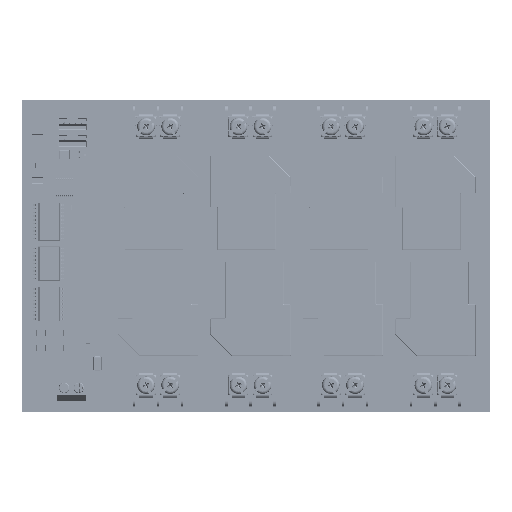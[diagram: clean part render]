
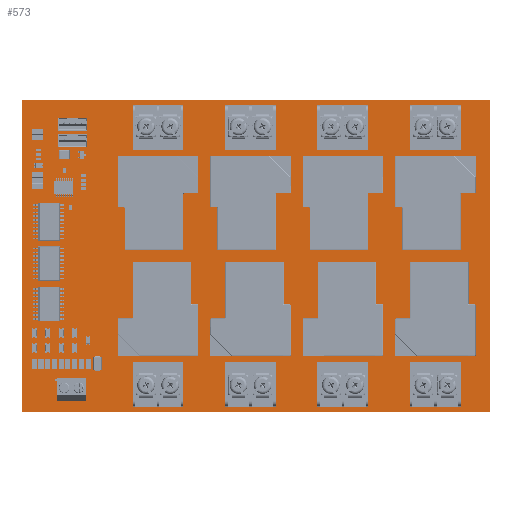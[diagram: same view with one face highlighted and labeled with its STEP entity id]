
A CAD part, top view. The second image highlights one B-rep face of the part: STEP entity #573.
In plain terms, the highlighted planar face has unit normal (0, 0, 1).
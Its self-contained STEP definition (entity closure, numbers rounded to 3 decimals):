
#259 = VERTEX_POINT('',#260);
#260 = CARTESIAN_POINT('',(0.,0.,1.671));
#267 = PLANE('',#268);
#268 = AXIS2_PLACEMENT_3D('',#269,#270,#271);
#269 = CARTESIAN_POINT('',(0.,0.,0.));
#270 = DIRECTION('',(0.,1.,0.));
#271 = DIRECTION('',(1.,0.,0.));
#279 = PLANE('',#280);
#280 = AXIS2_PLACEMENT_3D('',#281,#282,#283);
#281 = CARTESIAN_POINT('',(0.,107.,0.));
#282 = DIRECTION('',(1.,0.,0.));
#283 = DIRECTION('',(0.,-1.,0.));
#291 = EDGE_CURVE('',#259,#292,#294,.T.);
#292 = VERTEX_POINT('',#293);
#293 = CARTESIAN_POINT('',(160.,0.,1.671));
#294 = SURFACE_CURVE('',#295,(#299,#306),.PCURVE_S1.);
#295 = LINE('',#296,#297);
#296 = CARTESIAN_POINT('',(0.,0.,1.671));
#297 = VECTOR('',#298,1.);
#298 = DIRECTION('',(1.,0.,0.));
#299 = PCURVE('',#267,#300);
#300 = DEFINITIONAL_REPRESENTATION('',(#301),#305);
#301 = LINE('',#302,#303);
#302 = CARTESIAN_POINT('',(0.,-1.671));
#303 = VECTOR('',#304,1.);
#304 = DIRECTION('',(1.,0.));
#305 = ( GEOMETRIC_REPRESENTATION_CONTEXT(2) 
PARAMETRIC_REPRESENTATION_CONTEXT() REPRESENTATION_CONTEXT('2D SPACE',''
  ) );
#306 = PCURVE('',#307,#312);
#307 = PLANE('',#308);
#308 = AXIS2_PLACEMENT_3D('',#309,#310,#311);
#309 = CARTESIAN_POINT('',(0.,0.,1.671));
#310 = DIRECTION('',(0.,0.,-1.));
#311 = DIRECTION('',(-1.,0.,0.));
#312 = DEFINITIONAL_REPRESENTATION('',(#313),#317);
#313 = LINE('',#314,#315);
#314 = CARTESIAN_POINT('',(0.,0.));
#315 = VECTOR('',#316,1.);
#316 = DIRECTION('',(-1.,0.));
#317 = ( GEOMETRIC_REPRESENTATION_CONTEXT(2) 
PARAMETRIC_REPRESENTATION_CONTEXT() REPRESENTATION_CONTEXT('2D SPACE',''
  ) );
#335 = PLANE('',#336);
#336 = AXIS2_PLACEMENT_3D('',#337,#338,#339);
#337 = CARTESIAN_POINT('',(160.,0.,0.));
#338 = DIRECTION('',(-1.,0.,0.));
#339 = DIRECTION('',(0.,1.,0.));
#377 = EDGE_CURVE('',#292,#378,#380,.T.);
#378 = VERTEX_POINT('',#379);
#379 = CARTESIAN_POINT('',(160.,107.,1.671));
#380 = SURFACE_CURVE('',#381,(#385,#392),.PCURVE_S1.);
#381 = LINE('',#382,#383);
#382 = CARTESIAN_POINT('',(160.,0.,1.671));
#383 = VECTOR('',#384,1.);
#384 = DIRECTION('',(0.,1.,0.));
#385 = PCURVE('',#335,#386);
#386 = DEFINITIONAL_REPRESENTATION('',(#387),#391);
#387 = LINE('',#388,#389);
#388 = CARTESIAN_POINT('',(0.,-1.671));
#389 = VECTOR('',#390,1.);
#390 = DIRECTION('',(1.,0.));
#391 = ( GEOMETRIC_REPRESENTATION_CONTEXT(2) 
PARAMETRIC_REPRESENTATION_CONTEXT() REPRESENTATION_CONTEXT('2D SPACE',''
  ) );
#392 = PCURVE('',#307,#393);
#393 = DEFINITIONAL_REPRESENTATION('',(#394),#398);
#394 = LINE('',#395,#396);
#395 = CARTESIAN_POINT('',(-160.,0.));
#396 = VECTOR('',#397,1.);
#397 = DIRECTION('',(0.,1.));
#398 = ( GEOMETRIC_REPRESENTATION_CONTEXT(2) 
PARAMETRIC_REPRESENTATION_CONTEXT() REPRESENTATION_CONTEXT('2D SPACE',''
  ) );
#416 = PLANE('',#417);
#417 = AXIS2_PLACEMENT_3D('',#418,#419,#420);
#418 = CARTESIAN_POINT('',(160.,107.,0.));
#419 = DIRECTION('',(0.,-1.,0.));
#420 = DIRECTION('',(-1.,0.,0.));
#453 = EDGE_CURVE('',#378,#454,#456,.T.);
#454 = VERTEX_POINT('',#455);
#455 = CARTESIAN_POINT('',(0.,107.,1.671));
#456 = SURFACE_CURVE('',#457,(#461,#468),.PCURVE_S1.);
#457 = LINE('',#458,#459);
#458 = CARTESIAN_POINT('',(160.,107.,1.671));
#459 = VECTOR('',#460,1.);
#460 = DIRECTION('',(-1.,0.,0.));
#461 = PCURVE('',#416,#462);
#462 = DEFINITIONAL_REPRESENTATION('',(#463),#467);
#463 = LINE('',#464,#465);
#464 = CARTESIAN_POINT('',(0.,-1.671));
#465 = VECTOR('',#466,1.);
#466 = DIRECTION('',(1.,0.));
#467 = ( GEOMETRIC_REPRESENTATION_CONTEXT(2) 
PARAMETRIC_REPRESENTATION_CONTEXT() REPRESENTATION_CONTEXT('2D SPACE',''
  ) );
#468 = PCURVE('',#307,#469);
#469 = DEFINITIONAL_REPRESENTATION('',(#470),#474);
#470 = LINE('',#471,#472);
#471 = CARTESIAN_POINT('',(-160.,107.));
#472 = VECTOR('',#473,1.);
#473 = DIRECTION('',(1.,0.));
#474 = ( GEOMETRIC_REPRESENTATION_CONTEXT(2) 
PARAMETRIC_REPRESENTATION_CONTEXT() REPRESENTATION_CONTEXT('2D SPACE',''
  ) );
#524 = EDGE_CURVE('',#454,#259,#525,.T.);
#525 = SURFACE_CURVE('',#526,(#530,#537),.PCURVE_S1.);
#526 = LINE('',#527,#528);
#527 = CARTESIAN_POINT('',(0.,107.,1.671));
#528 = VECTOR('',#529,1.);
#529 = DIRECTION('',(0.,-1.,0.));
#530 = PCURVE('',#279,#531);
#531 = DEFINITIONAL_REPRESENTATION('',(#532),#536);
#532 = LINE('',#533,#534);
#533 = CARTESIAN_POINT('',(0.,-1.671));
#534 = VECTOR('',#535,1.);
#535 = DIRECTION('',(1.,0.));
#536 = ( GEOMETRIC_REPRESENTATION_CONTEXT(2) 
PARAMETRIC_REPRESENTATION_CONTEXT() REPRESENTATION_CONTEXT('2D SPACE',''
  ) );
#537 = PCURVE('',#307,#538);
#538 = DEFINITIONAL_REPRESENTATION('',(#539),#543);
#539 = LINE('',#540,#541);
#540 = CARTESIAN_POINT('',(0.,107.));
#541 = VECTOR('',#542,1.);
#542 = DIRECTION('',(0.,-1.));
#543 = ( GEOMETRIC_REPRESENTATION_CONTEXT(2) 
PARAMETRIC_REPRESENTATION_CONTEXT() REPRESENTATION_CONTEXT('2D SPACE',''
  ) );
#573 = ADVANCED_FACE('',(#574),#307,.F.);
#574 = FACE_BOUND('',#575,.T.);
#575 = EDGE_LOOP('',(#576,#577,#578,#579));
#576 = ORIENTED_EDGE('',*,*,#291,.T.);
#577 = ORIENTED_EDGE('',*,*,#377,.T.);
#578 = ORIENTED_EDGE('',*,*,#453,.T.);
#579 = ORIENTED_EDGE('',*,*,#524,.T.);
